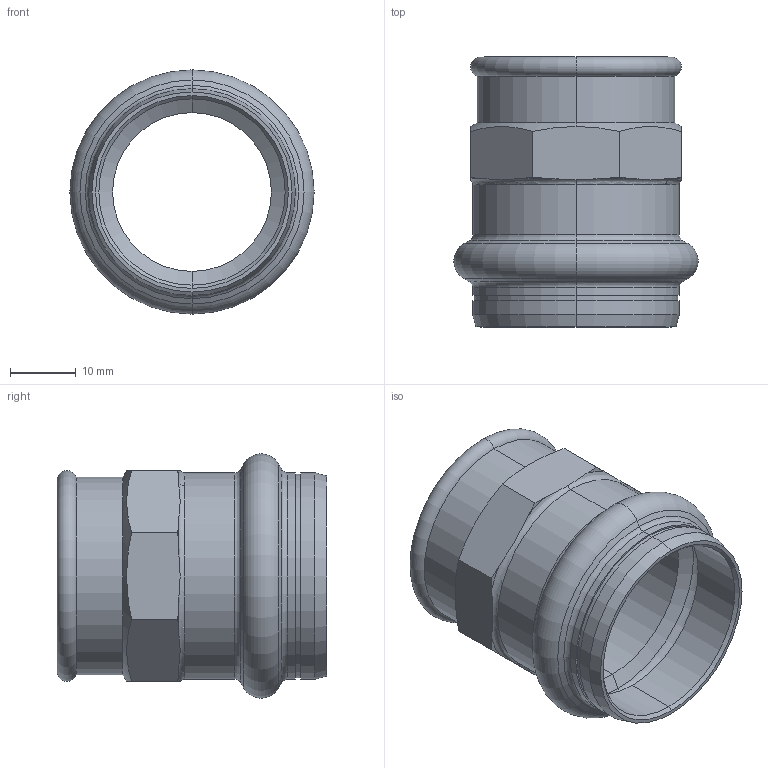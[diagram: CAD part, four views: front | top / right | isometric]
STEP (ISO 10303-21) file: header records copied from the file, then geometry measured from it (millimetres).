
FILE_DESCRIPTION (( 'STEP AP203' ), '1' );
FILE_NAME ('SP4270G Ø28 3-4.STEP', '2017-04-26T08:31:14', ( '' ), ( '' ), 'SwSTEP 2.0', 'SolidWorks 2016', '' );
FILE_SCHEMA (( 'CONFIG_CONTROL_DESIGN' ));
Length unit declared in the file: millimetre
Products named in the file (1): SP4270G Ø28 3-4
Bounding box: 37.1 x 41 x 37.1 mm (x, y, z)
Volume: 9332.1 mm3; surface area: 8857.8 mm2
Topology: 1 solids, 1 shells, 65 faces, 148 edges, 88 vertices
Faces by surface type: cone 24, cylinder 16, plane 13, torus 12
Entity records: 2039 total; most frequent: CARTESIAN_POINT 514, DIRECTION 316, ORIENTED_EDGE 296, EDGE_CURVE 148, AXIS2_PLACEMENT_3D 138, VERTEX_POINT 88, CIRCLE 72, EDGE_LOOP 70
